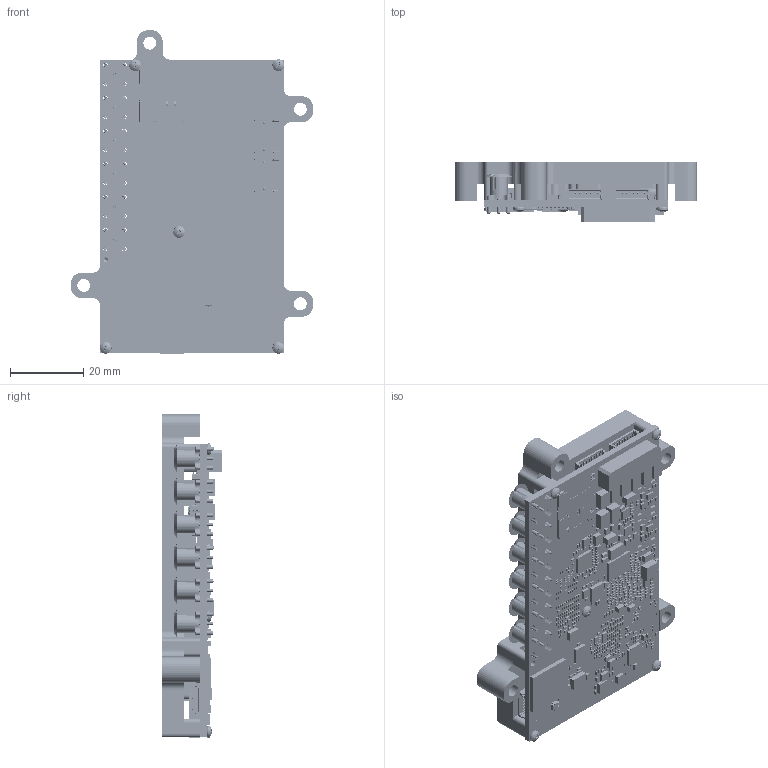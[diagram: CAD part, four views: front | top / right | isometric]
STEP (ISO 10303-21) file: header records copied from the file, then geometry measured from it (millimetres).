
FILE_DESCRIPTION (( 'STEP AP214' ), '1' );
FILE_NAME ('360_0000_V04_08082024.STEP', '2024-08-08T07:58:08', ( '' ), ( '' ), 'SwSTEP 2.0', 'SolidWorks 2019', '' );
FILE_SCHEMA (( 'AUTOMOTIVE_DESIGN' ));
Length unit declared in the file: millimetre
Products named in the file (137): SOLDER_MASK.stp; BODY-SOT.stp; X3_1P6X1P2.stp; SM06B-SRSS-TB.stp; SM08B-SRSS-TB(LF)(SN).stp; 82_MCX_75_0_5_111_NH.stp; DBV0005A_ASM.stp; DBV5.stp; MSOP8_ROHM.stp; BGA72_4P5X4P5_04.stp; IND_0402_NXP.stp; HX2QFN16_0P4_2P7X2P7.stp; DX07S024JA2-V1.stp; MX46765-0302.stp; LEAD-SOT.stp; Jupiter_Mini_R1; K3D-DX07S024JA2-V1_JAE_Proprietary.stp; BGA548_0P5_15X15MM.stp; C0805.stp; ASSEMBLY.stp; QTH-020-02-F-D-DP-A.stp; ASSEMBLY-1.stp; FBGA400_17X17_08.stp; RV-3028-C7.stp; LEAD-DUMMY.stp; 5031820853-4.stp; 0532610471.stp; DFE252012C.stp; X32_3P2X2P5.stp; DFN8_3X3_05.stp; ZEC0036A_ASM.stp; product-0.stp; PSOP8.stp; ZEC0036A.stp; Jupiter_Mini_R1.stp; SM05B-SRSS-TB-LFS.stp; PAR-00102977.stp; 360_1000_V04; TP35RD.stp; SM08B-SRSS-TB.stp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
Assembly tree (1116 placements, depth 7):
  360_0000_V04_08082024
    Jupiter_Mini_R1
      Jupiter_Mini_R1.stp
        COMPONENTS.stp
          KC2520_2P5X2P0.stp
            product.stp
          KC2520_2P5X2P0.stp
            product.stp
          KC2520_2P5X2P0.stp
            product.stp
          DFE201612C.stp
            product-0.stp
          DFE201612C.stp
            product-0.stp
          DFE201612C.stp
            product-0.stp
          DFE201612C.stp
            product-0.stp
          DFE201612C.stp
            product-0.stp
          DFE201612C.stp
            product-0.stp
          X32_3P2X2P5.stp
            ASSEMBLY.stp
              Body.stp
              Pins.stp
          X32_3P2X2P5.stp
            ASSEMBLY.stp
              Body.stp
              Pins.stp
          X32_3P2X2P5.stp
            ASSEMBLY.stp
              Body.stp
              Pins.stp
          HUQFN16_1P6X2P4.stp
            ASSEMBLY-1.stp
              Body-1.stp
              Pins-2.stp
          HUQFN16_1P6X2P4.stp
            ASSEMBLY-1.stp
              Body-1.stp
              Pins-2.stp
          TQFN42_3_5X9_05EP.stp
            ASSEMBLY-2.stp
              Body-3.stp
              ThermalPin.stp
              PinsArrayLR.stp
              PinsArrayTB.stp
          0532610471.stp
            532610471.stp
          DBV5.stp
            DBV0005A_ASM.stp
              BODY-SOT.stp
              LEAD-SOT.stp  x5
              LEAD-DUMMY.stp
          DBV5.stp
            DBV0005A_ASM.stp
              BODY-SOT.stp
              LEAD-SOT.stp  x5
              LEAD-DUMMY.stp
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Bounding box: 66 x 16.56 x 88.1 mm (x, y, z)
Volume: 34064.3 mm3; surface area: 33035 mm2
Topology: 383 solids, 1327 shells, 14006 faces, 34124 edges, 21722 vertices
Faces by surface type: plane 11295, cylinder 1982, cone 324, bspline 141, torus 134, sphere 130
Entity records: 178950 total; most frequent: CARTESIAN_POINT 36050, DIRECTION 27690, ORIENTED_EDGE 27414, EDGE_CURVE 13760, VECTOR 10818, LINE 10818, VERTEX_POINT 8998, AXIS2_PLACEMENT_3D 8436
